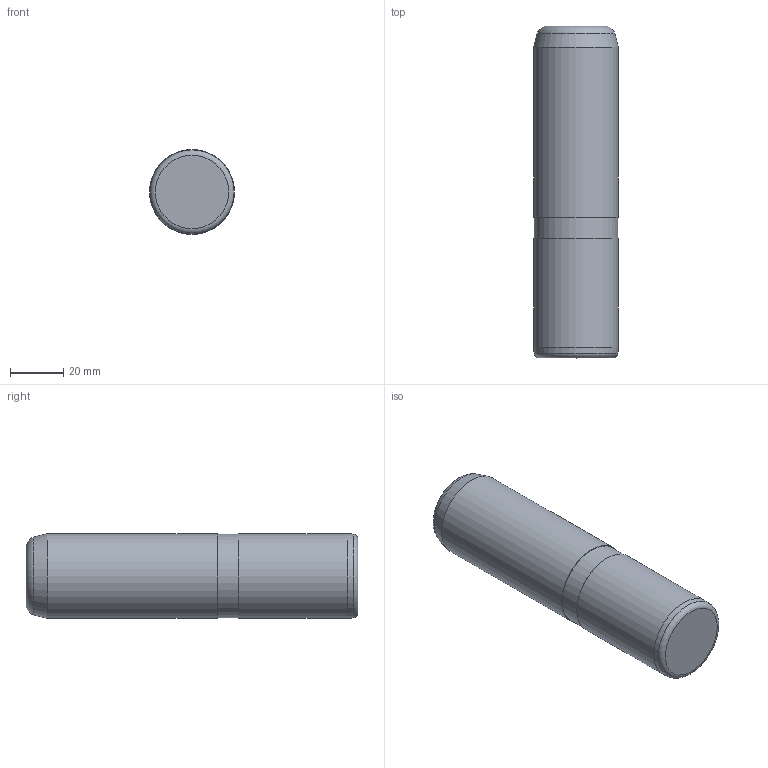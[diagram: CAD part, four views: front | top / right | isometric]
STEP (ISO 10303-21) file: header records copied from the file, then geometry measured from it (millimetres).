
FILE_DESCRIPTION( ( 'STEP AP203' ), '1' );
FILE_NAME( 'D:/Cuma/26 04 2010/D15/D15_32125.step', '2003-02-25T14:51:26', ( ' ' ), ( ' ' ), 'XStep 1.0', ' ', ' ' );
FILE_SCHEMA( ( 'CONFIG_CONTROL_DESIGN' ) );
Length unit declared in the file: metre
Products named in the file (1): 1
Bounding box: 32 x 125 x 32 mm (x, y, z)
Volume: 99219.5 mm3; surface area: 13792.7 mm2
Topology: 1 solids, 1 shells, 11 faces, 17 edges, 10 vertices
Faces by surface type: plane 4, cylinder 3, torus 2, cone 2
Full cylindrical faces by diameter (mm): 31.5 x1, 32 x2
Entity records: 259 total; most frequent: DIRECTION 44, CARTESIAN_POINT 32, AXIS2_PLACEMENT_3D 22, EDGE_LOOP 20, ORIENTED_EDGE 20, FACE_OUTER_BOUND 16, ADVANCED_FACE 11, EDGE_CURVE 10
